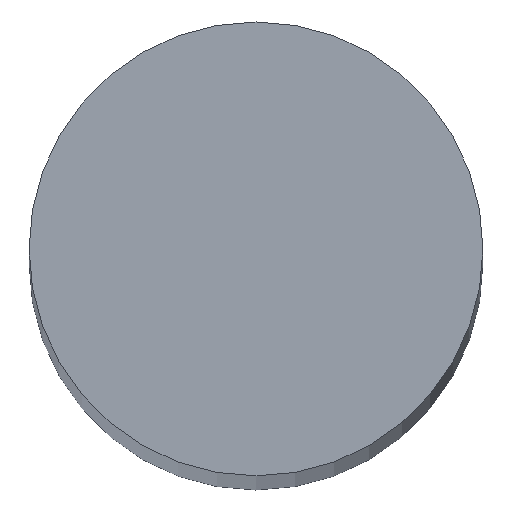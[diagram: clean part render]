
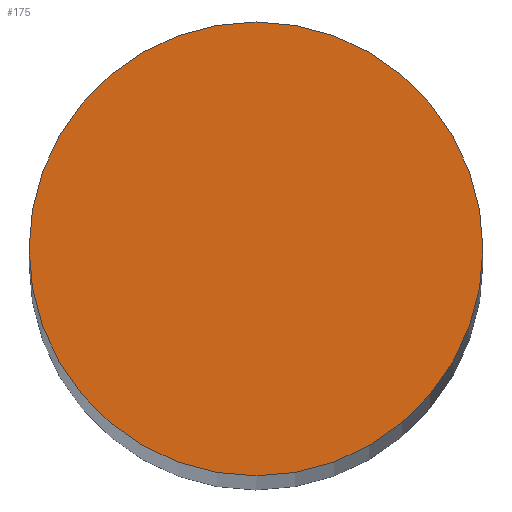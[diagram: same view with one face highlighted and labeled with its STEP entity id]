
A CAD part, top view. The second image highlights one B-rep face of the part: STEP entity #175.
In plain terms, the highlighted planar face has unit normal (0, 0, 1).
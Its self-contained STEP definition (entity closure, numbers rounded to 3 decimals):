
#12 = DIRECTION ( 'NONE',  ( 0., 0., 1. ) ) ;
#35 = PLANE ( 'NONE',  #238 ) ;
#71 = EDGE_CURVE ( 'NONE', #120, #120, #117, .T. ) ;
#86 = DIRECTION ( 'NONE',  ( 0., 0., 1. ) ) ;
#117 = CIRCLE ( 'NONE', #156, 7. ) ;
#120 = VERTEX_POINT ( 'NONE', #201 ) ;
#146 = ORIENTED_EDGE ( 'NONE', *, *, #71, .T. ) ;
#155 = CARTESIAN_POINT ( 'NONE',  ( 0., 0., 250. ) ) ;
#156 = AXIS2_PLACEMENT_3D ( 'NONE', #155, #86, #237 ) ;
#175 = ADVANCED_FACE ( 'NONE', ( #273 ), #35, .T. ) ;
#193 = CARTESIAN_POINT ( 'NONE',  ( 0., 0., 250. ) ) ;
#201 = CARTESIAN_POINT ( 'NONE',  ( 7., 0., 250. ) ) ;
#222 = EDGE_LOOP ( 'NONE', ( #146 ) ) ;
#237 = DIRECTION ( 'NONE',  ( 1., 0., 0. ) ) ;
#238 = AXIS2_PLACEMENT_3D ( 'NONE', #193, #12, #245 ) ;
#245 = DIRECTION ( 'NONE',  ( 1., 0., 0. ) ) ;
#273 = FACE_OUTER_BOUND ( 'NONE', #222, .T. ) ;
